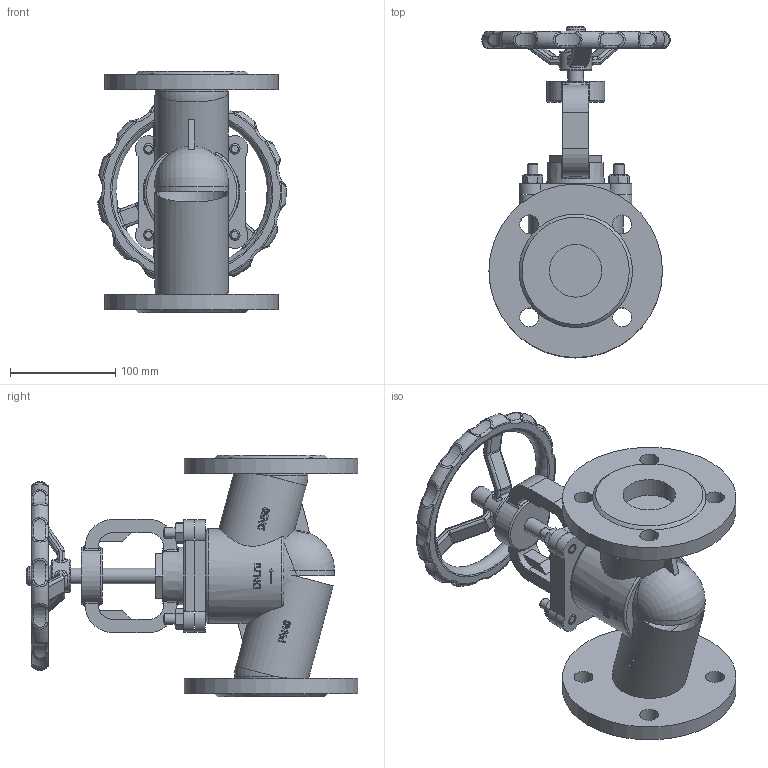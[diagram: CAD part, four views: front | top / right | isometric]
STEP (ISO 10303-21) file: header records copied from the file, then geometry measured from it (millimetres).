
FILE_DESCRIPTION(('STEP AP242'), '1');
FILE_NAME('VSO2130M-F-S 孰囡囗 玎镱痦 DN.ru 捏50 畜40', '2026-04-27T20:49:06', ('DN.ru'), (''), 'C3D Converter', 'C3D Toolkit', '');
FILE_SCHEMA(('AP242_MANAGED_MODEL_BASED_3D_ENGINEERING_MIM_LF { 1 0 10303 442 1 1 4 }'));
Length unit declared in the file: millimetre
Products named in the file (1): VSO2130M-F-S
Bounding box: 179.26 x 315.5 x 230 mm (x, y, z)
Volume: 2051709.2 mm3; surface area: 297224.5 mm2
Topology: 1 solids, 1 shells, 907 faces, 2314 edges, 1436 vertices
Faces by surface type: plane 264, extrusion 220, cylinder 153, torus 120, bspline 66, sphere 64, cone 20
Full cylindrical faces by diameter (mm): 10 x12, 15 x2, 18 x8, 18.285 x1, 25 x1, 30.475 x1, 50 x2, 55 x1, 70 x2, 75 x1, 90 x1, 165 x2
Entity records: 68539 total; most frequent: CARTESIAN_POINT 41019, ORIENTED_EDGE 4448, DIRECTION 3541, EDGE_CURVE 2224, VERTEX_POINT 1430, AXIS2_PLACEMENT_3D 1300, EDGE_LOOP 1048, B_SPLINE_CURVE_WITH_KNOTS 973
